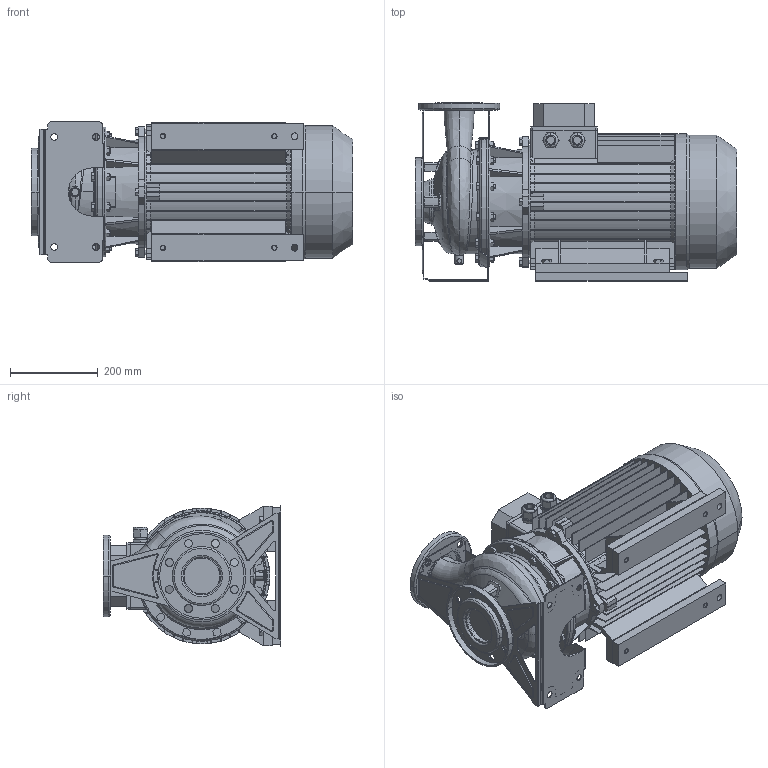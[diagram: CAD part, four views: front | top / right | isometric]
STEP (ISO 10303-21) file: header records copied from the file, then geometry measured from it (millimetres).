
FILE_DESCRIPTION((''),'2;1');
FILE_NAME('3M_65-200_226_E_ASM','2011-07-06T',('Utente'),('"Ebara Pumps Europe +39.444.706811"'),'PRO/ENGINEER BY PARAMETRIC TECHNOLOGY CORPORATION, 2009360','PRO/ENGINEER BY PARAMETRIC TECHNOLOGY CORPORATION, 2009360','');
FILE_SCHEMA(('AUTOMOTIVE_DESIGN { 1 0 10303 214 1 1 1 1 }'));
Length unit declared in the file: millimetre
Products named in the file (12): MEC_160X170_210_250_IE2; SUPPORTO_3M_230_160_H109; CORPO_65-200; ASP_65-200; FLANGIA_DIN_80_8_FORI; MAND_65-200; FLANGIA_DIN_65; BASE_3M_65-200; CORPO_SALDATO_65-200_ASM; SOSTEGNO_72095; VITE_8-8_TEPF_UNI5737-M12X040; 3M_65-200_226_E_ASM
Assembly tree (15 placements, depth 3):
  3M_65-200_226_E_ASM
    MEC_160X170_210_250_IE2
    SUPPORTO_3M_230_160_H109
    CORPO_SALDATO_65-200_ASM
      CORPO_65-200
      ASP_65-200
      FLANGIA_DIN_80_8_FORI
      MAND_65-200
      FLANGIA_DIN_65
      BASE_3M_65-200
    SOSTEGNO_72095  x2
    VITE_8-8_TEPF_UNI5737-M12X040  x4
Bounding box: 732 x 405 x 320 mm (x, y, z)
Volume: 26708458.1 mm3; surface area: 2797697.1 mm2
Topology: 17 solids, 23 shells, 1380 faces, 3491 edges, 2232 vertices
Faces by surface type: plane 778, cylinder 373, cone 128, torus 62, bspline 33, sphere 6
Entity records: 56378 total; most frequent: CARTESIAN_POINT 10949, DIRECTION 6788, ORIENTED_EDGE 6630, PRESENTATION_STYLE_ASSIGNMENT 3331, STYLED_ITEM 3331, CURVE_STYLE 3317, EDGE_CURVE 3317, AXIS2_PLACEMENT_3D 2402
